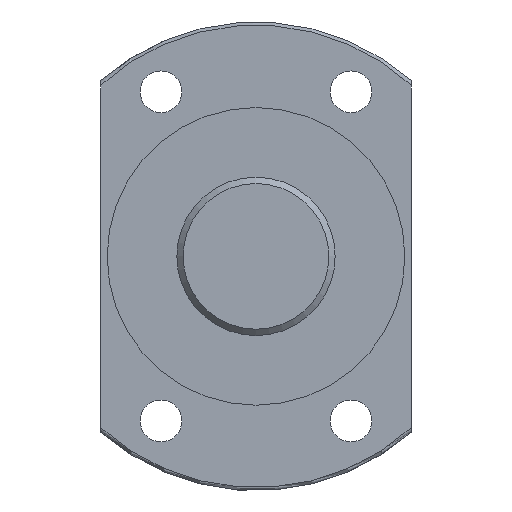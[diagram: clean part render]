
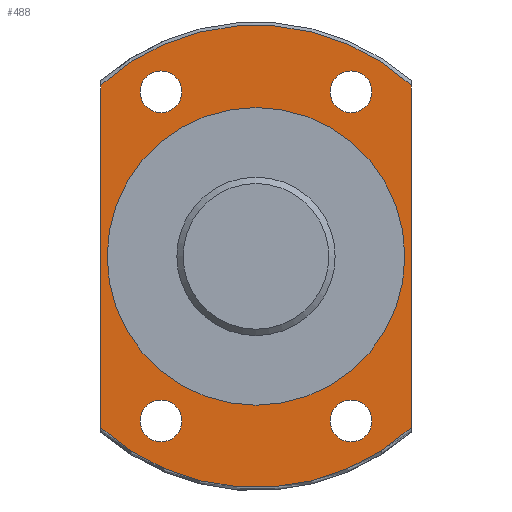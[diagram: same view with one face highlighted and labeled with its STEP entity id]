
A CAD part, left-side view. The second image highlights one B-rep face of the part: STEP entity #488.
In plain terms, the highlighted planar face has unit normal (-1, 0, 0).
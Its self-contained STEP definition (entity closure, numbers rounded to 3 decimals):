
#64=PLANE('',#555);
#90=LINE('',#783,#98);
#92=LINE('',#816,#100);
#98=VECTOR('',#604,1000.);
#100=VECTOR('',#608,1000.);
#163=ORIENTED_EDGE('',*,*,#253,.F.);
#164=ORIENTED_EDGE('',*,*,#228,.F.);
#165=ORIENTED_EDGE('',*,*,#251,.F.);
#166=ORIENTED_EDGE('',*,*,#235,.T.);
#167=ORIENTED_EDGE('',*,*,#247,.F.);
#168=ORIENTED_EDGE('',*,*,#245,.F.);
#169=ORIENTED_EDGE('',*,*,#243,.F.);
#170=ORIENTED_EDGE('',*,*,#241,.F.);
#171=ORIENTED_EDGE('',*,*,#239,.F.);
#228=EDGE_CURVE('',#285,#286,#90,.T.);
#235=EDGE_CURVE('',#291,#290,#92,.T.);
#239=EDGE_CURVE('',#294,#294,#320,.T.);
#241=EDGE_CURVE('',#296,#296,#322,.T.);
#243=EDGE_CURVE('',#298,#298,#324,.T.);
#245=EDGE_CURVE('',#300,#300,#326,.T.);
#247=EDGE_CURVE('',#286,#290,#328,.T.);
#251=EDGE_CURVE('',#291,#285,#332,.T.);
#253=EDGE_CURVE('',#302,#302,#334,.T.);
#285=VERTEX_POINT('',#782);
#286=VERTEX_POINT('',#784);
#290=VERTEX_POINT('',#815);
#291=VERTEX_POINT('',#817);
#294=VERTEX_POINT('',#829);
#296=VERTEX_POINT('',#834);
#298=VERTEX_POINT('',#839);
#300=VERTEX_POINT('',#844);
#302=VERTEX_POINT('',#861);
#320=CIRCLE('',#532,3.3);
#322=CIRCLE('',#535,3.3);
#324=CIRCLE('',#538,3.3);
#326=CIRCLE('',#541,3.3);
#328=CIRCLE('',#545,36.5);
#332=CIRCLE('',#552,36.5);
#334=CIRCLE('',#556,23.5);
#371=EDGE_LOOP('',(#163));
#372=EDGE_LOOP('',(#164,#165,#166,#167));
#373=EDGE_LOOP('',(#168));
#374=EDGE_LOOP('',(#169));
#375=EDGE_LOOP('',(#170));
#376=EDGE_LOOP('',(#171));
#428=FACE_BOUND('',#371,.T.);
#429=FACE_BOUND('',#372,.T.);
#430=FACE_BOUND('',#373,.T.);
#431=FACE_BOUND('',#374,.T.);
#432=FACE_BOUND('',#375,.T.);
#433=FACE_BOUND('',#376,.T.);
#488=ADVANCED_FACE('',(#428,#429,#430,#431,#432,#433),#64,.T.);
#532=AXIS2_PLACEMENT_3D('',#828,#614,#615);
#535=AXIS2_PLACEMENT_3D('',#833,#620,#621);
#538=AXIS2_PLACEMENT_3D('',#838,#626,#627);
#541=AXIS2_PLACEMENT_3D('',#843,#632,#633);
#545=AXIS2_PLACEMENT_3D('',#848,#640,#641);
#552=AXIS2_PLACEMENT_3D('',#855,#654,#655);
#555=AXIS2_PLACEMENT_3D('',#859,#660,#661);
#556=AXIS2_PLACEMENT_3D('',#860,#662,#663);
#604=DIRECTION('',(0.,0.,1.));
#608=DIRECTION('',(0.,0.,1.));
#614=DIRECTION('',(-1.,0.,0.));
#615=DIRECTION('',(0.,-1.,0.));
#620=DIRECTION('',(-1.,0.,0.));
#621=DIRECTION('',(0.,-1.,0.));
#626=DIRECTION('',(-1.,0.,0.));
#627=DIRECTION('',(0.,-1.,0.));
#632=DIRECTION('',(-1.,0.,0.));
#633=DIRECTION('',(0.,-1.,0.));
#640=DIRECTION('',(1.,0.,0.));
#641=DIRECTION('',(0.,1.,0.));
#654=DIRECTION('',(1.,0.,0.));
#655=DIRECTION('',(0.,1.,0.));
#660=DIRECTION('',(-1.,0.,0.));
#661=DIRECTION('',(0.,-1.,0.));
#662=DIRECTION('',(-1.,0.,0.));
#663=DIRECTION('',(0.,-1.,0.));
#782=CARTESIAN_POINT('',(-89.,24.5,-27.055));
#783=CARTESIAN_POINT('',(-89.,24.5,0.));
#784=CARTESIAN_POINT('',(-89.,24.5,27.055));
#815=CARTESIAN_POINT('',(-89.,-24.5,27.055));
#816=CARTESIAN_POINT('',(-89.,-24.5,0.));
#817=CARTESIAN_POINT('',(-89.,-24.5,-27.055));
#828=CARTESIAN_POINT('',(-89.,15.,-25.98));
#829=CARTESIAN_POINT('',(-89.,11.7,-25.98));
#833=CARTESIAN_POINT('',(-89.,-15.,-25.98));
#834=CARTESIAN_POINT('',(-89.,-18.3,-25.98));
#838=CARTESIAN_POINT('',(-89.,-15.,25.98));
#839=CARTESIAN_POINT('',(-89.,-18.3,25.98));
#843=CARTESIAN_POINT('',(-89.,15.,25.98));
#844=CARTESIAN_POINT('',(-89.,11.7,25.98));
#848=CARTESIAN_POINT('',(-89.,0.,0.));
#855=CARTESIAN_POINT('',(-89.,0.,0.));
#859=CARTESIAN_POINT('',(-89.,36.5,0.));
#860=CARTESIAN_POINT('',(-89.,0.,0.));
#861=CARTESIAN_POINT('',(-89.,-23.5,0.));
